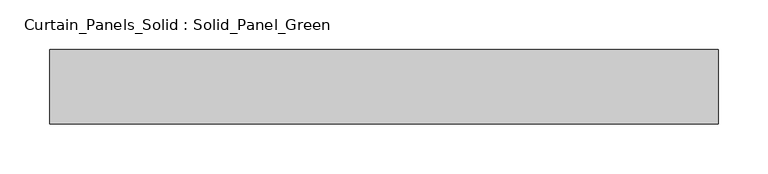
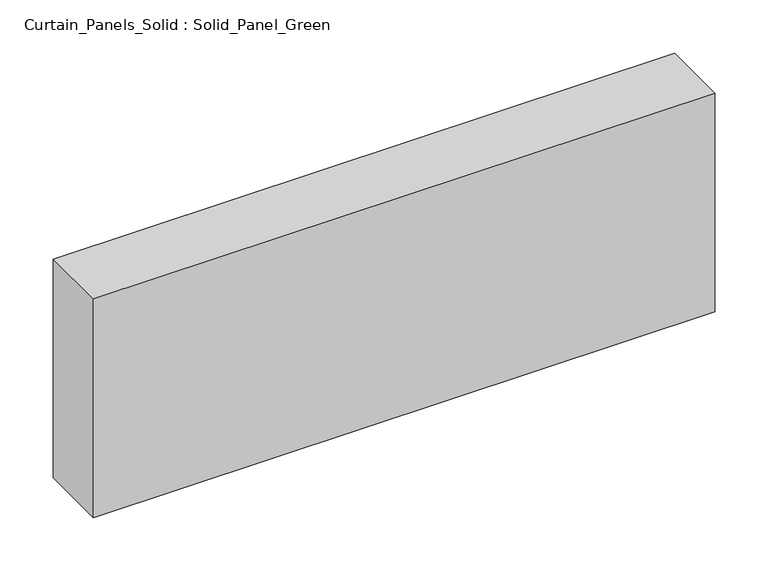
"""IFC4 building model written with IfcOpenShell, lengths in millimetres: plate geometry, Curtain_Panels_Solid : Solid_Panel_Green."""

from ifc_helpers import new_model, si_unit, origin, origin_with_axes, place, context, project, spatial, polyline, outline, extrude, source, transform, mapped, element, save


def curtain_panels_solid_solid_panel_green_3b4ed4f9(model_context):
    return source(origin(), model_context, "Body", "SweptSolid", [
        extrude(outline(polyline([(335.8333334, -25.0), (-335.8333334, -25.0), (-335.8333334, 50.0), (335.8333334, 50.0), (335.8333334, -25.0)])), origin_with_axes(), (0.0, 0.0, 1.0), 250.0),
    ])


if __name__ == "__main__":
    model = new_model("IFC4")
    model_context = context("Model", 3, world=origin())
    ifc_project = project(units=[si_unit("LENGTHUNIT", "METRE", prefix="MILLI")], contexts=[model_context])
    site = spatial("IfcSite", under=ifc_project)
    building = spatial("IfcBuilding", under=site)
    placement = place(None, origin())
    curtain_panels_solid_solid_panel_green_shape = curtain_panels_solid_solid_panel_green_3b4ed4f9(model_context)
    element("IfcPlate", 1, ObjectType="Curtain_Panels_Solid : Solid_Panel_Green", at=placement, inside=building, context=model_context, shape_type="MappedRepresentation", body=[
        mapped(curtain_panels_solid_solid_panel_green_shape, transform((0.0, 0.0, 0.0), x_axis=(1.0, 0.0, 0.0), y_axis=(0.0, 1.0, 0.0), z_axis=(0.0, 0.0, 1.0))),
    ])
    save(model, "model.ifc")
